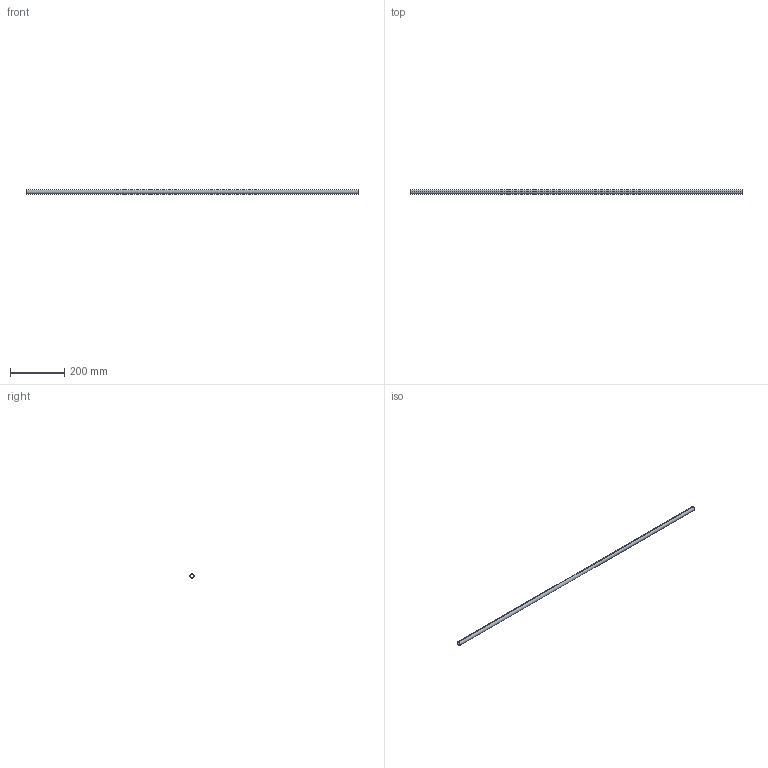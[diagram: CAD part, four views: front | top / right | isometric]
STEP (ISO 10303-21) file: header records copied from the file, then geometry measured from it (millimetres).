
FILE_DESCRIPTION (( 'STEP AP214' ), '1' );
FILE_NAME ('3MHeatShrinkTubingFP301_0.5-80611601206.step', '2025-12-23T15:54:38', ( '' ), ( '' ), 'SwSTEP 2.0', 'SolidWorks 2026', '' );
FILE_SCHEMA (( 'AUTOMOTIVE_DESIGN' ));
Length unit declared in the file: inch
Products named in the file (1): 3MHeatShrinkTubingFP301_0.5-80611601206
Bounding box: 1219.2 x 15.24 x 15.24 mm (x, y, z)
Volume: 67955.6 mm3; surface area: 107128.1 mm2
Topology: 1 solids, 1 shells, 6 faces, 12 edges, 8 vertices
Faces by surface type: cylinder 4, plane 2
Entity records: 195 total; most frequent: DIRECTION 34, CARTESIAN_POINT 27, ORIENTED_EDGE 24, AXIS2_PLACEMENT_3D 15, EDGE_CURVE 12, CIRCLE 8, EDGE_LOOP 8, VERTEX_POINT 8
